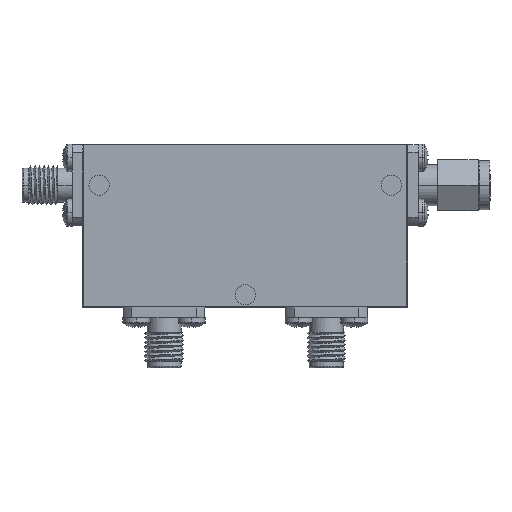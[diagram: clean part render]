
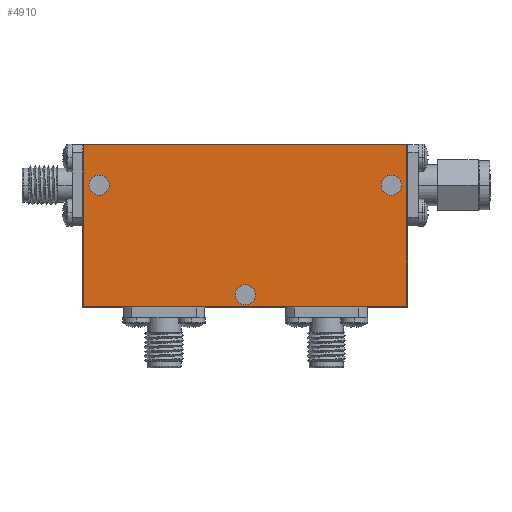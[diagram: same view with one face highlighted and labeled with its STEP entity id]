
A CAD part, top view. The second image highlights one B-rep face of the part: STEP entity #4910.
In plain terms, the highlighted planar face has unit normal (0, 0, 1).
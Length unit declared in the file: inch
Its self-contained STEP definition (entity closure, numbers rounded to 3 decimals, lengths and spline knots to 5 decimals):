
#63 = CARTESIAN_POINT ( 'NONE',  ( -0.995, 0.4975, 0.504 ) ) ;
#98 = CARTESIAN_POINT ( 'NONE',  ( 0.995, -0.4975, 0.504 ) ) ;
#172 = ORIENTED_EDGE ( 'NONE', *, *, #4106, .F. ) ;
#230 = CARTESIAN_POINT ( 'NONE',  ( 0., -0.4275, 0.504 ) ) ;
#275 = DIRECTION ( 'NONE',  ( 0., 0., 1. ) ) ;
#281 = EDGE_CURVE ( 'NONE', #2362, #4932, #5186, .T. ) ;
#309 = CIRCLE ( 'NONE', #4086, 0.0625 ) ;
#355 = CIRCLE ( 'NONE', #3538, 0.0625 ) ;
#358 = EDGE_CURVE ( 'NONE', #2171, #4480, #2765, .T. ) ;
#427 = FACE_BOUND ( 'NONE', #3308, .T. ) ;
#534 = AXIS2_PLACEMENT_3D ( 'NONE', #5539, #4577, #1399 ) ;
#601 = DIRECTION ( 'NONE',  ( 1., 0., 0. ) ) ;
#692 = DIRECTION ( 'NONE',  ( 1., 0., 0. ) ) ;
#728 = EDGE_CURVE ( 'NONE', #3627, #920, #3607, .T. ) ;
#805 = DIRECTION ( 'NONE',  ( -1., 0., 0. ) ) ;
#840 = VECTOR ( 'NONE', #5285, 39.37008 ) ;
#860 = CARTESIAN_POINT ( 'NONE',  ( 0.9, 0.2475, 0.504 ) ) ;
#881 = DIRECTION ( 'NONE',  ( 0., 0., 1. ) ) ;
#920 = VERTEX_POINT ( 'NONE', #2221 ) ;
#973 = LINE ( 'NONE', #4341, #2332 ) ;
#1023 = DIRECTION ( 'NONE',  ( 0., 1., 0. ) ) ;
#1036 = EDGE_CURVE ( 'NONE', #1069, #4598, #1611, .T. ) ;
#1069 = VERTEX_POINT ( 'NONE', #98 ) ;
#1082 = ORIENTED_EDGE ( 'NONE', *, *, #728, .T. ) ;
#1087 = DIRECTION ( 'NONE',  ( 0., 0., 1. ) ) ;
#1204 = EDGE_LOOP ( 'NONE', ( #1912, #1682, #1082, #1957 ) ) ;
#1313 = CIRCLE ( 'NONE', #2850, 0.0625 ) ;
#1399 = DIRECTION ( 'NONE',  ( 1., 0., 0. ) ) ;
#1488 = AXIS2_PLACEMENT_3D ( 'NONE', #3510, #3534, #805 ) ;
#1538 = DIRECTION ( 'NONE',  ( 1., 0., 0. ) ) ;
#1581 = EDGE_CURVE ( 'NONE', #4598, #3627, #4945, .T. ) ;
#1611 = LINE ( 'NONE', #4617, #3755 ) ;
#1643 = FACE_BOUND ( 'NONE', #4404, .T. ) ;
#1682 = ORIENTED_EDGE ( 'NONE', *, *, #1581, .T. ) ;
#1700 = ORIENTED_EDGE ( 'NONE', *, *, #5413, .F. ) ;
#1912 = ORIENTED_EDGE ( 'NONE', *, *, #1036, .T. ) ;
#1957 = ORIENTED_EDGE ( 'NONE', *, *, #2342, .T. ) ;
#1960 = DIRECTION ( 'NONE',  ( 0., 0., 1. ) ) ;
#2171 = VERTEX_POINT ( 'NONE', #5621 ) ;
#2183 = EDGE_CURVE ( 'NONE', #4480, #2171, #309, .T. ) ;
#2204 = DIRECTION ( 'NONE',  ( 1., 0., 0. ) ) ;
#2221 = CARTESIAN_POINT ( 'NONE',  ( -0.995, -0.4975, 0.504 ) ) ;
#2317 = ORIENTED_EDGE ( 'NONE', *, *, #281, .F. ) ;
#2332 = VECTOR ( 'NONE', #4773, 39.37008 ) ;
#2342 = EDGE_CURVE ( 'NONE', #920, #1069, #973, .T. ) ;
#2362 = VERTEX_POINT ( 'NONE', #5720 ) ;
#2433 = CARTESIAN_POINT ( 'NONE',  ( 0.9, 0.2475, 0.504 ) ) ;
#2542 = CARTESIAN_POINT ( 'NONE',  ( -0.995, -0.4975, 0.504 ) ) ;
#2765 = CIRCLE ( 'NONE', #534, 0.0625 ) ;
#2850 = AXIS2_PLACEMENT_3D ( 'NONE', #230, #3419, #692 ) ;
#2960 = EDGE_CURVE ( 'NONE', #3099, #3439, #4453, .T. ) ;
#3073 = DIRECTION ( 'NONE',  ( 1., 0., 0. ) ) ;
#3099 = VERTEX_POINT ( 'NONE', #3935 ) ;
#3308 = EDGE_LOOP ( 'NONE', ( #4511, #4491 ) ) ;
#3419 = DIRECTION ( 'NONE',  ( 0., 0., 1. ) ) ;
#3439 = VERTEX_POINT ( 'NONE', #3909 ) ;
#3476 = PLANE ( 'NONE',  #1488 ) ;
#3510 = CARTESIAN_POINT ( 'NONE',  ( 0., 0., 0.504 ) ) ;
#3534 = DIRECTION ( 'NONE',  ( 0., 0., -1. ) ) ;
#3538 = AXIS2_PLACEMENT_3D ( 'NONE', #2433, #1960, #601 ) ;
#3578 = EDGE_LOOP ( 'NONE', ( #172, #3851 ) ) ;
#3607 = LINE ( 'NONE', #2542, #840 ) ;
#3627 = VERTEX_POINT ( 'NONE', #5343 ) ;
#3755 = VECTOR ( 'NONE', #1023, 39.37008 ) ;
#3851 = ORIENTED_EDGE ( 'NONE', *, *, #2960, .F. ) ;
#3909 = CARTESIAN_POINT ( 'NONE',  ( 0.0625, -0.4275, 0.504 ) ) ;
#3935 = CARTESIAN_POINT ( 'NONE',  ( -0.0625, -0.4275, 0.504 ) ) ;
#4086 = AXIS2_PLACEMENT_3D ( 'NONE', #4268, #1087, #1538 ) ;
#4106 = EDGE_CURVE ( 'NONE', #3439, #3099, #1313, .T. ) ;
#4216 = FACE_BOUND ( 'NONE', #3578, .T. ) ;
#4268 = CARTESIAN_POINT ( 'NONE',  ( -0.9, 0.2475, 0.504 ) ) ;
#4341 = CARTESIAN_POINT ( 'NONE',  ( -0.995, -0.4975, 0.504 ) ) ;
#4382 = CARTESIAN_POINT ( 'NONE',  ( 0., -0.4275, 0.504 ) ) ;
#4404 = EDGE_LOOP ( 'NONE', ( #2317, #1700 ) ) ;
#4447 = CARTESIAN_POINT ( 'NONE',  ( 0.8375, 0.2475, 0.504 ) ) ;
#4453 = CIRCLE ( 'NONE', #4846, 0.0625 ) ;
#4460 = VECTOR ( 'NONE', #5555, 39.37008 ) ;
#4480 = VERTEX_POINT ( 'NONE', #4825 ) ;
#4491 = ORIENTED_EDGE ( 'NONE', *, *, #2183, .F. ) ;
#4511 = ORIENTED_EDGE ( 'NONE', *, *, #358, .F. ) ;
#4577 = DIRECTION ( 'NONE',  ( 0., 0., 1. ) ) ;
#4598 = VERTEX_POINT ( 'NONE', #4914 ) ;
#4617 = CARTESIAN_POINT ( 'NONE',  ( 0.995, -0.4975, 0.504 ) ) ;
#4707 = FACE_OUTER_BOUND ( 'NONE', #1204, .T. ) ;
#4773 = DIRECTION ( 'NONE',  ( 1., 0., 0. ) ) ;
#4825 = CARTESIAN_POINT ( 'NONE',  ( -0.9625, 0.2475, 0.504 ) ) ;
#4846 = AXIS2_PLACEMENT_3D ( 'NONE', #4382, #275, #3073 ) ;
#4910 = ADVANCED_FACE ( 'NONE', ( #4216, #1643, #427, #4707 ), #3476, .F. ) ;
#4914 = CARTESIAN_POINT ( 'NONE',  ( 0.995, 0.4975, 0.504 ) ) ;
#4932 = VERTEX_POINT ( 'NONE', #4447 ) ;
#4945 = LINE ( 'NONE', #63, #4460 ) ;
#5186 = CIRCLE ( 'NONE', #5191, 0.0625 ) ;
#5191 = AXIS2_PLACEMENT_3D ( 'NONE', #860, #881, #2204 ) ;
#5285 = DIRECTION ( 'NONE',  ( 0., -1., 0. ) ) ;
#5343 = CARTESIAN_POINT ( 'NONE',  ( -0.995, 0.4975, 0.504 ) ) ;
#5413 = EDGE_CURVE ( 'NONE', #4932, #2362, #355, .T. ) ;
#5539 = CARTESIAN_POINT ( 'NONE',  ( -0.9, 0.2475, 0.504 ) ) ;
#5555 = DIRECTION ( 'NONE',  ( -1., 0., 0. ) ) ;
#5621 = CARTESIAN_POINT ( 'NONE',  ( -0.8375, 0.2475, 0.504 ) ) ;
#5720 = CARTESIAN_POINT ( 'NONE',  ( 0.9625, 0.2475, 0.504 ) ) ;
